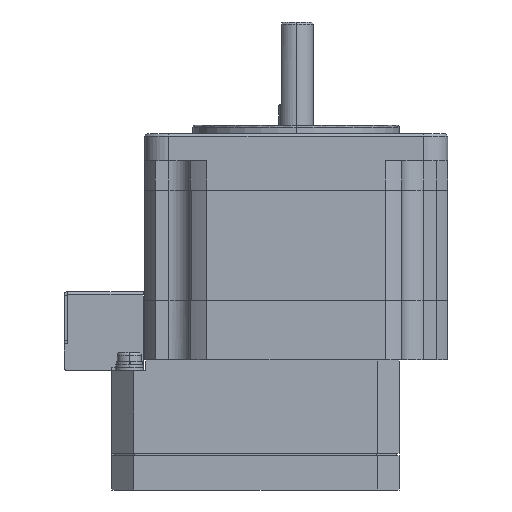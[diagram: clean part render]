
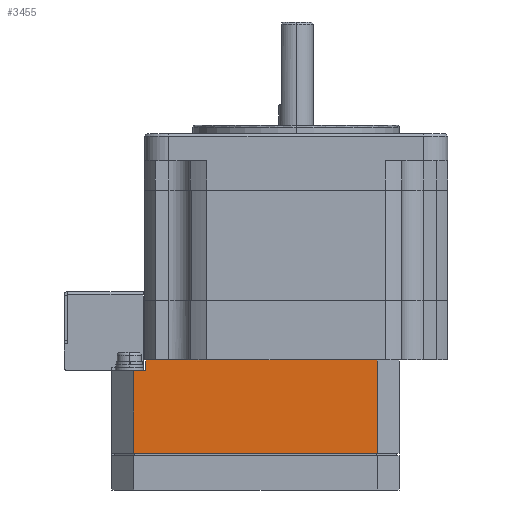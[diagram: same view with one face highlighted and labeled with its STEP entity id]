
A CAD part, left-side view. The second image highlights one B-rep face of the part: STEP entity #3455.
In plain terms, the highlighted planar face has unit normal (-1, 0, 0).
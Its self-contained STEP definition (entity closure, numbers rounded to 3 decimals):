
#1688 = EDGE_LOOP ( 'NONE', ( #7707, #7708, #7709, #7710, #7711, #7712, #7713 ) ) ;
#1856 = VERTEX_POINT ( 'NONE', #15524 ) ;
#1858 = VERTEX_POINT ( 'NONE', #15525 ) ;
#3455 = ADVANCED_FACE ( 'NONE', ( #16488 ), #16489, .T. ) ;
#6483 = EDGE_CURVE ( 'NONE', #13454, #13462, #21184, .T. ) ;
#6492 = EDGE_CURVE ( 'NONE', #13550, #13447, #21210, .T. ) ;
#6505 = EDGE_CURVE ( 'NONE', #13462, #13550, #21250, .T. ) ;
#6510 = EDGE_CURVE ( 'NONE', #13437, #13454, #21265, .T. ) ;
#6566 = EDGE_CURVE ( 'NONE', #1858, #13437, #21723, .T. ) ;
#6568 = EDGE_CURVE ( 'NONE', #13447, #1856, #21729, .T. ) ;
#6569 = EDGE_CURVE ( 'NONE', #1858, #1856, #21732, .T. ) ;
#7707 = ORIENTED_EDGE ( 'NONE', *, *, #6510, .T. ) ;
#7708 = ORIENTED_EDGE ( 'NONE', *, *, #6483, .T. ) ;
#7709 = ORIENTED_EDGE ( 'NONE', *, *, #6505, .T. ) ;
#7710 = ORIENTED_EDGE ( 'NONE', *, *, #6492, .T. ) ;
#7711 = ORIENTED_EDGE ( 'NONE', *, *, #6568, .T. ) ;
#7712 = ORIENTED_EDGE ( 'NONE', *, *, #6569, .F. ) ;
#7713 = ORIENTED_EDGE ( 'NONE', *, *, #6566, .T. ) ;
#13437 = VERTEX_POINT ( 'NONE', #25861 ) ;
#13447 = VERTEX_POINT ( 'NONE', #25871 ) ;
#13454 = VERTEX_POINT ( 'NONE', #25878 ) ;
#13462 = VERTEX_POINT ( 'NONE', #25886 ) ;
#13550 = VERTEX_POINT ( 'NONE', #25974 ) ;
#15524 = CARTESIAN_POINT ( 'NONE',  ( -21., 27.8, -43.8 ) ) ;
#15525 = CARTESIAN_POINT ( 'NONE',  ( -21., 30., -43.8 ) ) ;
#16480 = CARTESIAN_POINT ( 'NONE',  ( -21., -15., -41.8 ) ) ;
#16488 = FACE_OUTER_BOUND ( 'NONE', #1688, .T. ) ;
#16489 = PLANE ( 'NONE',  #17113 ) ;
#16491 = DIRECTION ( 'NONE',  ( -1., 0., 0. ) ) ;
#16492 = DIRECTION ( 'NONE',  ( 0., 1., 0. ) ) ;
#17113 = AXIS2_PLACEMENT_3D ( 'NONE', #16480, #16491, #16492 ) ;
#21184 = LINE ( 'NONE', #21186, #21463 ) ;
#21186 = CARTESIAN_POINT ( 'NONE',  ( -21., -15., -50.4 ) ) ;
#21187 = DIRECTION ( 'NONE',  ( 0., 0., 1. ) ) ;
#21210 = LINE ( 'NONE', #21211, #21472 ) ;
#21211 = CARTESIAN_POINT ( 'NONE',  ( -21., 7.5, -41.8 ) ) ;
#21212 = DIRECTION ( 'NONE',  ( 0., 1., 0. ) ) ;
#21250 = LINE ( 'NONE', #21251, #21487 ) ;
#21251 = CARTESIAN_POINT ( 'NONE',  ( -21., 7.5, -41.8 ) ) ;
#21252 = DIRECTION ( 'NONE',  ( 0., 1., 0. ) ) ;
#21265 = LINE ( 'NONE', #21266, #21492 ) ;
#21266 = CARTESIAN_POINT ( 'NONE',  ( -21., 7.5, -59. ) ) ;
#21267 = DIRECTION ( 'NONE',  ( 0., -1., 0. ) ) ;
#21463 = VECTOR ( 'NONE', #21187, 1000. ) ;
#21472 = VECTOR ( 'NONE', #21212, 1000. ) ;
#21487 = VECTOR ( 'NONE', #21252, 1000. ) ;
#21492 = VECTOR ( 'NONE', #21267, 1000. ) ;
#21558 = VECTOR ( 'NONE', #21725, 1000. ) ;
#21560 = VECTOR ( 'NONE', #21731, 1000. ) ;
#21561 = VECTOR ( 'NONE', #21734, 1000. ) ;
#21723 = LINE ( 'NONE', #21724, #21558 ) ;
#21724 = CARTESIAN_POINT ( 'NONE',  ( -21., 30., -50.4 ) ) ;
#21725 = DIRECTION ( 'NONE',  ( 0., 0., -1. ) ) ;
#21729 = LINE ( 'NONE', #21730, #21560 ) ;
#21730 = CARTESIAN_POINT ( 'NONE',  ( -21., 27.8, -42.8 ) ) ;
#21731 = DIRECTION ( 'NONE',  ( 0., 0., -1. ) ) ;
#21732 = LINE ( 'NONE', #21733, #21561 ) ;
#21733 = CARTESIAN_POINT ( 'NONE',  ( -21., 30.9, -43.8 ) ) ;
#21734 = DIRECTION ( 'NONE',  ( 0., -1., 0. ) ) ;
#25861 = CARTESIAN_POINT ( 'NONE',  ( -21., 30., -59. ) ) ;
#25871 = CARTESIAN_POINT ( 'NONE',  ( -21., 27.8, -41.8 ) ) ;
#25878 = CARTESIAN_POINT ( 'NONE',  ( -21., -15., -59. ) ) ;
#25886 = CARTESIAN_POINT ( 'NONE',  ( -21., -15., -41.8 ) ) ;
#25974 = CARTESIAN_POINT ( 'NONE',  ( -21., 20.378, -41.8 ) ) ;
